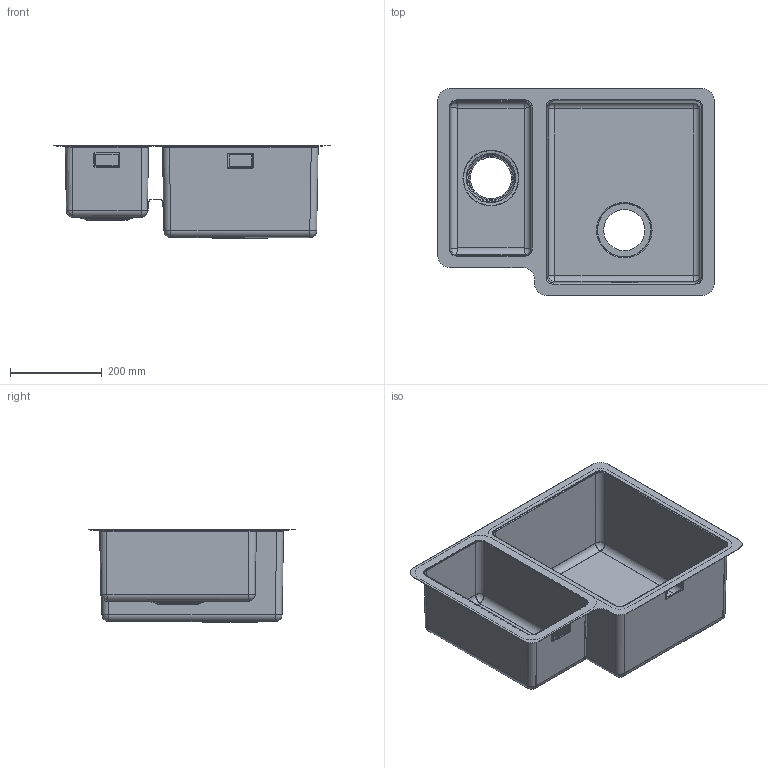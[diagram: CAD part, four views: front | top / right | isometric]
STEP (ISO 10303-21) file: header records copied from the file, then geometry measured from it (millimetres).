
FILE_DESCRIPTION(('CATIA V5 STEP Exchange'),'2;1');
FILE_NAME('\\sr02\Apell\Disegni\DISEGNI\LAVELLI\Ferrara Plus\STP\FEM3418UBC.stp','2016-07-15T13:24:14+00:00',('none'),('none'),'CATIA Version 5-6 Release 2014','CATIA V5 STEP AP203','none');
FILE_SCHEMA(('CONFIG_CONTROL_DESIGN'));
Length unit declared in the file: millimetre
Products named in the file (1): 3303303_VSTR3416
Assembly tree (4 placements, depth 2):
  3303303_VSTR3416
    #57
    #3751
    #4721
    #10841
Bounding box: 603 x 452 x 203 mm (x, y, z)
Volume: 703707.2 mm3; surface area: 1425405 mm2
Topology: 4 solids, 4 shells, 302 faces, 698 edges, 399 vertices
Faces by surface type: cylinder 110, plane 88, torus 60, cone 20, bspline 16, sphere 8
Entity records: 11361 total; most frequent: CARTESIAN_POINT 4872, ORIENTED_EDGE 1364, DIRECTION 1144, EDGE_CURVE 682, AXIS2_PLACEMENT_3D 545, VERTEX_POINT 398, VECTOR 327, LINE 327
